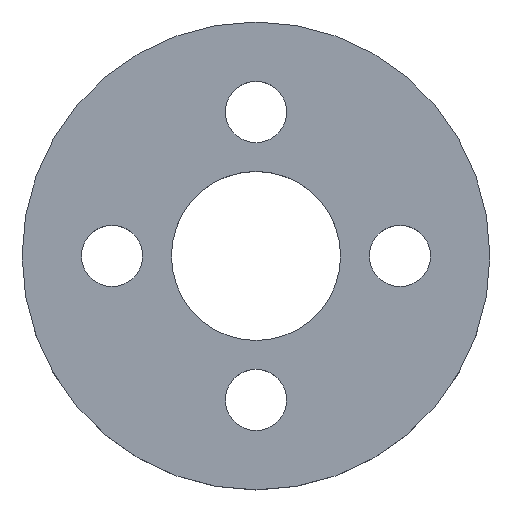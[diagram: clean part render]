
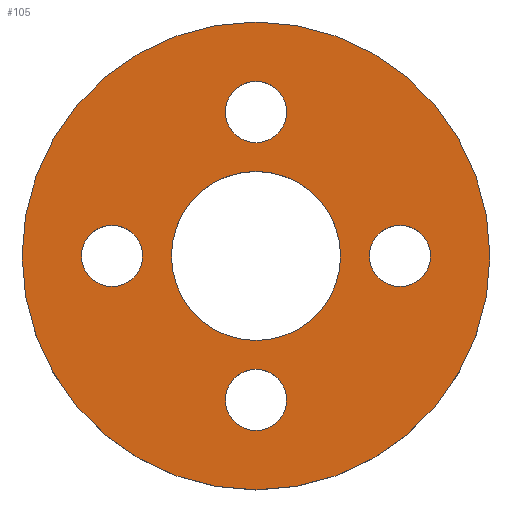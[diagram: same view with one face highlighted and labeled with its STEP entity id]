
A CAD part, top view. The second image highlights one B-rep face of the part: STEP entity #105.
In plain terms, the highlighted planar face has unit normal (0, 0, 1).
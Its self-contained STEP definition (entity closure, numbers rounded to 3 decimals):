
#21 = EDGE_CURVE('',#22,#22,#24,.T.);
#22 = VERTEX_POINT('',#23);
#23 = CARTESIAN_POINT('',(6.5,0.,-12.95));
#24 = SURFACE_CURVE('',#25,(#30,#42),.PCURVE_S1.);
#25 = CIRCLE('',#26,6.5);
#26 = AXIS2_PLACEMENT_3D('',#27,#28,#29);
#27 = CARTESIAN_POINT('',(0.,0.,-12.95));
#28 = DIRECTION('',(0.,0.,1.));
#29 = DIRECTION('',(1.,0.,-0.));
#30 = PCURVE('',#31,#36);
#31 = CYLINDRICAL_SURFACE('',#32,6.5);
#32 = AXIS2_PLACEMENT_3D('',#33,#34,#35);
#33 = CARTESIAN_POINT('',(0.,0.,-14.95));
#34 = DIRECTION('',(0.,0.,1.));
#35 = DIRECTION('',(1.,0.,-0.));
#36 = DEFINITIONAL_REPRESENTATION('',(#37),#41);
#37 = LINE('',#38,#39);
#38 = CARTESIAN_POINT('',(0.,2.));
#39 = VECTOR('',#40,1.);
#40 = DIRECTION('',(1.,0.));
#41 = ( GEOMETRIC_REPRESENTATION_CONTEXT(2) 
PARAMETRIC_REPRESENTATION_CONTEXT() REPRESENTATION_CONTEXT('2D SPACE',''
  ) );
#42 = PCURVE('',#43,#48);
#43 = PLANE('',#44);
#44 = AXIS2_PLACEMENT_3D('',#45,#46,#47);
#45 = CARTESIAN_POINT('',(0.,0.,-12.95));
#46 = DIRECTION('',(0.,0.,1.));
#47 = DIRECTION('',(1.,0.,-0.));
#48 = DEFINITIONAL_REPRESENTATION('',(#49),#53);
#49 = CIRCLE('',#50,6.5);
#50 = AXIS2_PLACEMENT_2D('',#51,#52);
#51 = CARTESIAN_POINT('',(0.,0.));
#52 = DIRECTION('',(1.,0.));
#53 = ( GEOMETRIC_REPRESENTATION_CONTEXT(2) 
PARAMETRIC_REPRESENTATION_CONTEXT() REPRESENTATION_CONTEXT('2D SPACE',''
  ) );
#105 = ADVANCED_FACE('',(#106,#109,#140,#171,#202,#233),#43,.T.);
#106 = FACE_BOUND('',#107,.T.);
#107 = EDGE_LOOP('',(#108));
#108 = ORIENTED_EDGE('',*,*,#21,.T.);
#109 = FACE_BOUND('',#110,.T.);
#110 = EDGE_LOOP('',(#111));
#111 = ORIENTED_EDGE('',*,*,#112,.F.);
#112 = EDGE_CURVE('',#113,#113,#115,.T.);
#113 = VERTEX_POINT('',#114);
#114 = CARTESIAN_POINT('',(0.85,-4.,-12.95));
#115 = SURFACE_CURVE('',#116,(#121,#128),.PCURVE_S1.);
#116 = CIRCLE('',#117,0.85);
#117 = AXIS2_PLACEMENT_3D('',#118,#119,#120);
#118 = CARTESIAN_POINT('',(0.,-4.,-12.95));
#119 = DIRECTION('',(0.,0.,1.));
#120 = DIRECTION('',(1.,0.,-0.));
#121 = PCURVE('',#43,#122);
#122 = DEFINITIONAL_REPRESENTATION('',(#123),#127);
#123 = CIRCLE('',#124,0.85);
#124 = AXIS2_PLACEMENT_2D('',#125,#126);
#125 = CARTESIAN_POINT('',(0.,-4.));
#126 = DIRECTION('',(1.,0.));
#127 = ( GEOMETRIC_REPRESENTATION_CONTEXT(2) 
PARAMETRIC_REPRESENTATION_CONTEXT() REPRESENTATION_CONTEXT('2D SPACE',''
  ) );
#128 = PCURVE('',#129,#134);
#129 = CYLINDRICAL_SURFACE('',#130,0.85);
#130 = AXIS2_PLACEMENT_3D('',#131,#132,#133);
#131 = CARTESIAN_POINT('',(0.,-4.,-14.96));
#132 = DIRECTION('',(0.,0.,1.));
#133 = DIRECTION('',(1.,0.,-0.));
#134 = DEFINITIONAL_REPRESENTATION('',(#135),#139);
#135 = LINE('',#136,#137);
#136 = CARTESIAN_POINT('',(0.,2.01));
#137 = VECTOR('',#138,1.);
#138 = DIRECTION('',(1.,0.));
#139 = ( GEOMETRIC_REPRESENTATION_CONTEXT(2) 
PARAMETRIC_REPRESENTATION_CONTEXT() REPRESENTATION_CONTEXT('2D SPACE',''
  ) );
#140 = FACE_BOUND('',#141,.T.);
#141 = EDGE_LOOP('',(#142));
#142 = ORIENTED_EDGE('',*,*,#143,.F.);
#143 = EDGE_CURVE('',#144,#144,#146,.T.);
#144 = VERTEX_POINT('',#145);
#145 = CARTESIAN_POINT('',(-3.15,0.,-12.95));
#146 = SURFACE_CURVE('',#147,(#152,#159),.PCURVE_S1.);
#147 = CIRCLE('',#148,0.85);
#148 = AXIS2_PLACEMENT_3D('',#149,#150,#151);
#149 = CARTESIAN_POINT('',(-4.,0.,-12.95));
#150 = DIRECTION('',(0.,0.,1.));
#151 = DIRECTION('',(1.,0.,-0.));
#152 = PCURVE('',#43,#153);
#153 = DEFINITIONAL_REPRESENTATION('',(#154),#158);
#154 = CIRCLE('',#155,0.85);
#155 = AXIS2_PLACEMENT_2D('',#156,#157);
#156 = CARTESIAN_POINT('',(-4.,0.));
#157 = DIRECTION('',(1.,0.));
#158 = ( GEOMETRIC_REPRESENTATION_CONTEXT(2) 
PARAMETRIC_REPRESENTATION_CONTEXT() REPRESENTATION_CONTEXT('2D SPACE',''
  ) );
#159 = PCURVE('',#160,#165);
#160 = CYLINDRICAL_SURFACE('',#161,0.85);
#161 = AXIS2_PLACEMENT_3D('',#162,#163,#164);
#162 = CARTESIAN_POINT('',(-4.,0.,-14.96));
#163 = DIRECTION('',(0.,0.,1.));
#164 = DIRECTION('',(1.,0.,-0.));
#165 = DEFINITIONAL_REPRESENTATION('',(#166),#170);
#166 = LINE('',#167,#168);
#167 = CARTESIAN_POINT('',(0.,2.01));
#168 = VECTOR('',#169,1.);
#169 = DIRECTION('',(1.,0.));
#170 = ( GEOMETRIC_REPRESENTATION_CONTEXT(2) 
PARAMETRIC_REPRESENTATION_CONTEXT() REPRESENTATION_CONTEXT('2D SPACE',''
  ) );
#171 = FACE_BOUND('',#172,.T.);
#172 = EDGE_LOOP('',(#173));
#173 = ORIENTED_EDGE('',*,*,#174,.F.);
#174 = EDGE_CURVE('',#175,#175,#177,.T.);
#175 = VERTEX_POINT('',#176);
#176 = CARTESIAN_POINT('',(2.35,0.,-12.95));
#177 = SURFACE_CURVE('',#178,(#183,#190),.PCURVE_S1.);
#178 = CIRCLE('',#179,2.35);
#179 = AXIS2_PLACEMENT_3D('',#180,#181,#182);
#180 = CARTESIAN_POINT('',(0.,0.,-12.95));
#181 = DIRECTION('',(0.,0.,1.));
#182 = DIRECTION('',(1.,0.,-0.));
#183 = PCURVE('',#43,#184);
#184 = DEFINITIONAL_REPRESENTATION('',(#185),#189);
#185 = CIRCLE('',#186,2.35);
#186 = AXIS2_PLACEMENT_2D('',#187,#188);
#187 = CARTESIAN_POINT('',(0.,0.));
#188 = DIRECTION('',(1.,0.));
#189 = ( GEOMETRIC_REPRESENTATION_CONTEXT(2) 
PARAMETRIC_REPRESENTATION_CONTEXT() REPRESENTATION_CONTEXT('2D SPACE',''
  ) );
#190 = PCURVE('',#191,#196);
#191 = CYLINDRICAL_SURFACE('',#192,2.35);
#192 = AXIS2_PLACEMENT_3D('',#193,#194,#195);
#193 = CARTESIAN_POINT('',(0.,0.,-14.96));
#194 = DIRECTION('',(0.,0.,1.));
#195 = DIRECTION('',(1.,0.,-0.));
#196 = DEFINITIONAL_REPRESENTATION('',(#197),#201);
#197 = LINE('',#198,#199);
#198 = CARTESIAN_POINT('',(0.,2.01));
#199 = VECTOR('',#200,1.);
#200 = DIRECTION('',(1.,0.));
#201 = ( GEOMETRIC_REPRESENTATION_CONTEXT(2) 
PARAMETRIC_REPRESENTATION_CONTEXT() REPRESENTATION_CONTEXT('2D SPACE',''
  ) );
#202 = FACE_BOUND('',#203,.T.);
#203 = EDGE_LOOP('',(#204));
#204 = ORIENTED_EDGE('',*,*,#205,.F.);
#205 = EDGE_CURVE('',#206,#206,#208,.T.);
#206 = VERTEX_POINT('',#207);
#207 = CARTESIAN_POINT('',(4.85,0.,-12.95));
#208 = SURFACE_CURVE('',#209,(#214,#221),.PCURVE_S1.);
#209 = CIRCLE('',#210,0.85);
#210 = AXIS2_PLACEMENT_3D('',#211,#212,#213);
#211 = CARTESIAN_POINT('',(4.,0.,-12.95));
#212 = DIRECTION('',(0.,0.,1.));
#213 = DIRECTION('',(1.,0.,-0.));
#214 = PCURVE('',#43,#215);
#215 = DEFINITIONAL_REPRESENTATION('',(#216),#220);
#216 = CIRCLE('',#217,0.85);
#217 = AXIS2_PLACEMENT_2D('',#218,#219);
#218 = CARTESIAN_POINT('',(4.,0.));
#219 = DIRECTION('',(1.,0.));
#220 = ( GEOMETRIC_REPRESENTATION_CONTEXT(2) 
PARAMETRIC_REPRESENTATION_CONTEXT() REPRESENTATION_CONTEXT('2D SPACE',''
  ) );
#221 = PCURVE('',#222,#227);
#222 = CYLINDRICAL_SURFACE('',#223,0.85);
#223 = AXIS2_PLACEMENT_3D('',#224,#225,#226);
#224 = CARTESIAN_POINT('',(4.,0.,-14.96));
#225 = DIRECTION('',(0.,0.,1.));
#226 = DIRECTION('',(1.,0.,-0.));
#227 = DEFINITIONAL_REPRESENTATION('',(#228),#232);
#228 = LINE('',#229,#230);
#229 = CARTESIAN_POINT('',(0.,2.01));
#230 = VECTOR('',#231,1.);
#231 = DIRECTION('',(1.,0.));
#232 = ( GEOMETRIC_REPRESENTATION_CONTEXT(2) 
PARAMETRIC_REPRESENTATION_CONTEXT() REPRESENTATION_CONTEXT('2D SPACE',''
  ) );
#233 = FACE_BOUND('',#234,.T.);
#234 = EDGE_LOOP('',(#235));
#235 = ORIENTED_EDGE('',*,*,#236,.F.);
#236 = EDGE_CURVE('',#237,#237,#239,.T.);
#237 = VERTEX_POINT('',#238);
#238 = CARTESIAN_POINT('',(0.85,4.,-12.95));
#239 = SURFACE_CURVE('',#240,(#245,#252),.PCURVE_S1.);
#240 = CIRCLE('',#241,0.85);
#241 = AXIS2_PLACEMENT_3D('',#242,#243,#244);
#242 = CARTESIAN_POINT('',(0.,4.,-12.95));
#243 = DIRECTION('',(0.,0.,1.));
#244 = DIRECTION('',(1.,0.,-0.));
#245 = PCURVE('',#43,#246);
#246 = DEFINITIONAL_REPRESENTATION('',(#247),#251);
#247 = CIRCLE('',#248,0.85);
#248 = AXIS2_PLACEMENT_2D('',#249,#250);
#249 = CARTESIAN_POINT('',(0.,4.));
#250 = DIRECTION('',(1.,0.));
#251 = ( GEOMETRIC_REPRESENTATION_CONTEXT(2) 
PARAMETRIC_REPRESENTATION_CONTEXT() REPRESENTATION_CONTEXT('2D SPACE',''
  ) );
#252 = PCURVE('',#253,#258);
#253 = CYLINDRICAL_SURFACE('',#254,0.85);
#254 = AXIS2_PLACEMENT_3D('',#255,#256,#257);
#255 = CARTESIAN_POINT('',(0.,4.,-14.96));
#256 = DIRECTION('',(0.,0.,1.));
#257 = DIRECTION('',(1.,0.,-0.));
#258 = DEFINITIONAL_REPRESENTATION('',(#259),#263);
#259 = LINE('',#260,#261);
#260 = CARTESIAN_POINT('',(0.,2.01));
#261 = VECTOR('',#262,1.);
#262 = DIRECTION('',(1.,0.));
#263 = ( GEOMETRIC_REPRESENTATION_CONTEXT(2) 
PARAMETRIC_REPRESENTATION_CONTEXT() REPRESENTATION_CONTEXT('2D SPACE',''
  ) );
